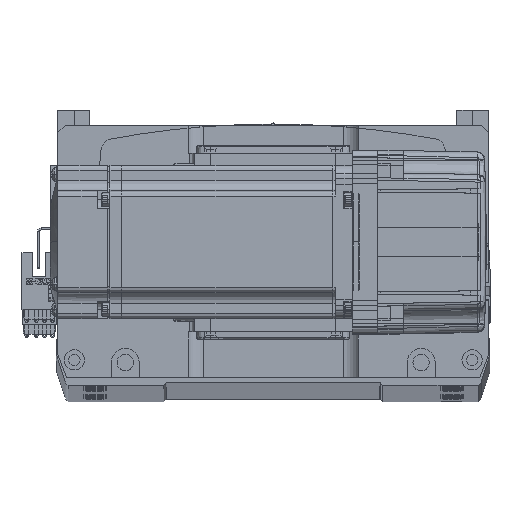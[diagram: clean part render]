
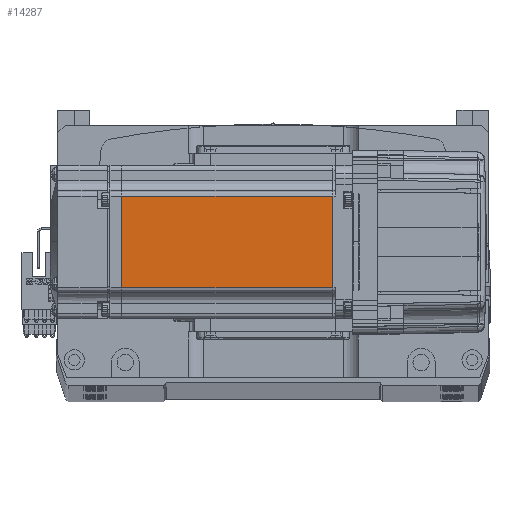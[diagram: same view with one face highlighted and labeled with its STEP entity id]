
A CAD part, top view. The second image highlights one B-rep face of the part: STEP entity #14287.
In plain terms, the highlighted planar face has unit normal (0, 0, 1).
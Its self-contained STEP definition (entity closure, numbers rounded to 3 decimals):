
#2264 = EDGE_CURVE ( 'NONE', #42249, #43371, #66055, .T. ) ;
#6965 = ORIENTED_EDGE ( 'NONE', *, *, #8026, .F. ) ;
#8026 = EDGE_CURVE ( 'NONE', #52752, #43371, #14564, .T. ) ;
#10818 = CARTESIAN_POINT ( 'NONE',  ( -6.5, 18., 30. ) ) ;
#11632 = CARTESIAN_POINT ( 'NONE',  ( -90.45, -18., 30. ) ) ;
#14159 = DIRECTION ( 'NONE',  ( 0., 0., 1. ) ) ;
#14287 = ADVANCED_FACE ( 'NONE', ( #16501 ), #31284, .T. ) ;
#14564 = LINE ( 'NONE', #38296, #49094 ) ;
#16501 = FACE_OUTER_BOUND ( 'NONE', #16994, .T. ) ;
#16519 = LINE ( 'NONE', #10818, #26268 ) ;
#16605 = ORIENTED_EDGE ( 'NONE', *, *, #42243, .F. ) ;
#16994 = EDGE_LOOP ( 'NONE', ( #16605, #47589, #18556, #6965 ) ) ;
#18556 = ORIENTED_EDGE ( 'NONE', *, *, #2264, .T. ) ;
#20477 = CARTESIAN_POINT ( 'NONE',  ( -7.75, 18., 30. ) ) ;
#24245 = VECTOR ( 'NONE', #61783, 1000. ) ;
#26268 = VECTOR ( 'NONE', #27469, 1000. ) ;
#27469 = DIRECTION ( 'NONE',  ( -1., 0., 0. ) ) ;
#28488 = AXIS2_PLACEMENT_3D ( 'NONE', #59447, #14159, #31764 ) ;
#31284 = PLANE ( 'NONE',  #28488 ) ;
#31764 = DIRECTION ( 'NONE',  ( 1., 0., 0. ) ) ;
#31875 = CARTESIAN_POINT ( 'NONE',  ( -90.45, 18., 30. ) ) ;
#33146 = DIRECTION ( 'NONE',  ( -1., 0., 0. ) ) ;
#38296 = CARTESIAN_POINT ( 'NONE',  ( -6.5, -18., 30. ) ) ;
#42243 = EDGE_CURVE ( 'NONE', #71988, #52752, #56041, .T. ) ;
#42249 = VERTEX_POINT ( 'NONE', #31875 ) ;
#42651 = CARTESIAN_POINT ( 'NONE',  ( -90.45, 0., 30. ) ) ;
#43128 = DIRECTION ( 'NONE',  ( 0., -1., 0. ) ) ;
#43371 = VERTEX_POINT ( 'NONE', #11632 ) ;
#47589 = ORIENTED_EDGE ( 'NONE', *, *, #50289, .T. ) ;
#49094 = VECTOR ( 'NONE', #33146, 1000. ) ;
#50289 = EDGE_CURVE ( 'NONE', #71988, #42249, #16519, .T. ) ;
#52752 = VERTEX_POINT ( 'NONE', #72371 ) ;
#55544 = CARTESIAN_POINT ( 'NONE',  ( -7.75, 0., 30. ) ) ;
#56041 = LINE ( 'NONE', #55544, #24245 ) ;
#59447 = CARTESIAN_POINT ( 'NONE',  ( -6.5, -25., 30. ) ) ;
#59877 = VECTOR ( 'NONE', #43128, 1000. ) ;
#61783 = DIRECTION ( 'NONE',  ( 0., -1., 0. ) ) ;
#66055 = LINE ( 'NONE', #42651, #59877 ) ;
#71988 = VERTEX_POINT ( 'NONE', #20477 ) ;
#72371 = CARTESIAN_POINT ( 'NONE',  ( -7.75, -18., 30. ) ) ;
